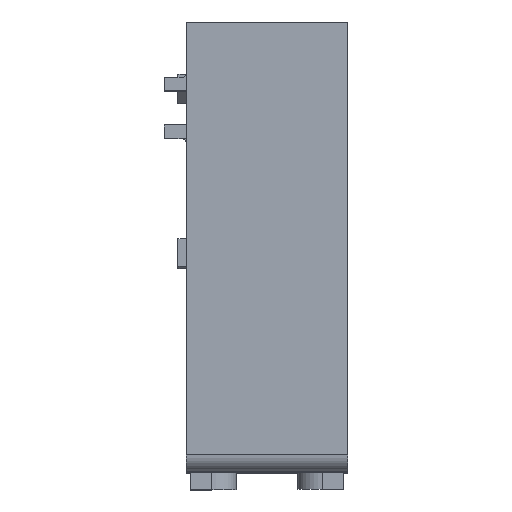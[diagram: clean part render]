
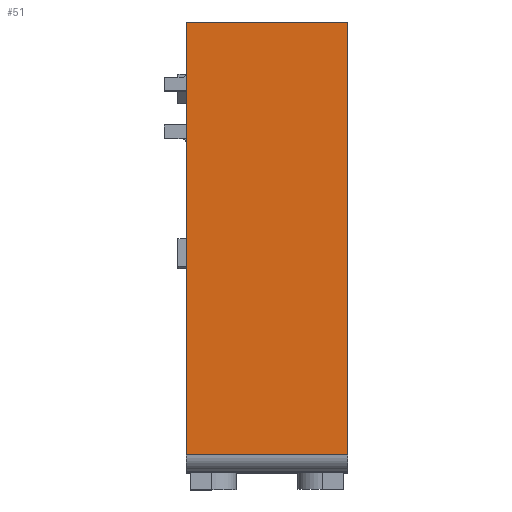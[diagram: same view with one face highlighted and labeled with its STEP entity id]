
A CAD part, top view. The second image highlights one B-rep face of the part: STEP entity #51.
In plain terms, the highlighted planar face has unit normal (0, 0, 1).
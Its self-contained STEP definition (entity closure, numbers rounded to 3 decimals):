
#51=ADVANCED_FACE('',(#362),#361,.F.);
#361=PLANE('',#2314);
#362=FACE_OUTER_BOUND('',#2315,.T.);
#2311=CARTESIAN_POINT('',(20.9,-61.1,62.2));
#2312=DIRECTION('',(0.,0.,-1.));
#2313=DIRECTION('',(-1.,0.,0.));
#2314=AXIS2_PLACEMENT_3D('',#2311,#2312,#2313);
#2315=EDGE_LOOP('',(#3373,#3374,#3375,#3376));
#3373=ORIENTED_EDGE('',*,*,#4379,.T.);
#3374=ORIENTED_EDGE('',*,*,#4380,.F.);
#3375=ORIENTED_EDGE('',*,*,#4291,.F.);
#3376=ORIENTED_EDGE('',*,*,#4378,.T.);
#4291=EDGE_CURVE('',#4866,#4867,#4868,.T.);
#4378=EDGE_CURVE('',#4866,#5462,#5469,.T.);
#4379=EDGE_CURVE('',#5462,#5475,#5476,.T.);
#4380=EDGE_CURVE('',#4867,#5475,#5482,.T.);
#4866=VERTEX_POINT('',#8239);
#4867=VERTEX_POINT('',#8240);
#4868=LINE('',#8241,#8242);
#5462=VERTEX_POINT('',#8580);
#5469=LINE('',#8584,#8585);
#5475=VERTEX_POINT('',#8587);
#5476=LINE('',#8588,#8589);
#5482=LINE('',#8591,#8592);
#8239=CARTESIAN_POINT('',(19.,-5.,62.2));
#8240=CARTESIAN_POINT('',(19.,-56.,62.2));
#8241=CARTESIAN_POINT('',(19.,-5.,62.2));
#8242=VECTOR('',#8243,51.);
#8243=DIRECTION('',(0.,-1.,0.));
#8580=CARTESIAN_POINT('',(0.,-5.,62.2));
#8584=CARTESIAN_POINT('',(19.,-5.,62.2));
#8585=VECTOR('',#8586,19.);
#8586=DIRECTION('',(-1.,0.,0.));
#8587=CARTESIAN_POINT('',(0.,-56.,62.2));
#8588=CARTESIAN_POINT('',(0.,-5.,62.2));
#8589=VECTOR('',#8590,51.);
#8590=DIRECTION('',(0.,-1.,0.));
#8591=CARTESIAN_POINT('',(19.,-56.,62.2));
#8592=VECTOR('',#8593,19.);
#8593=DIRECTION('',(-1.,0.,0.));
